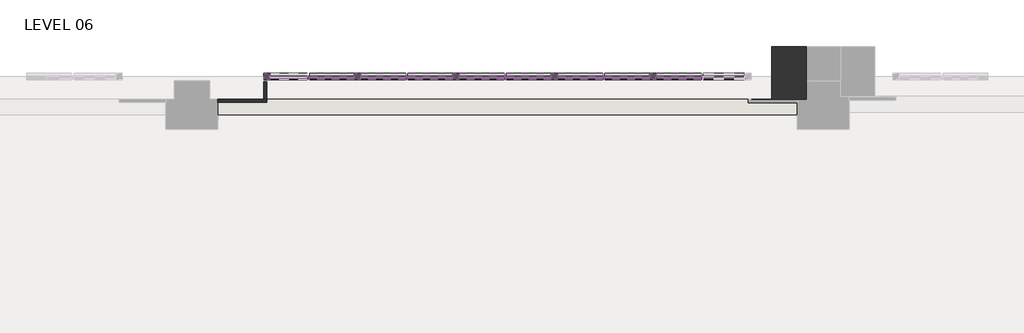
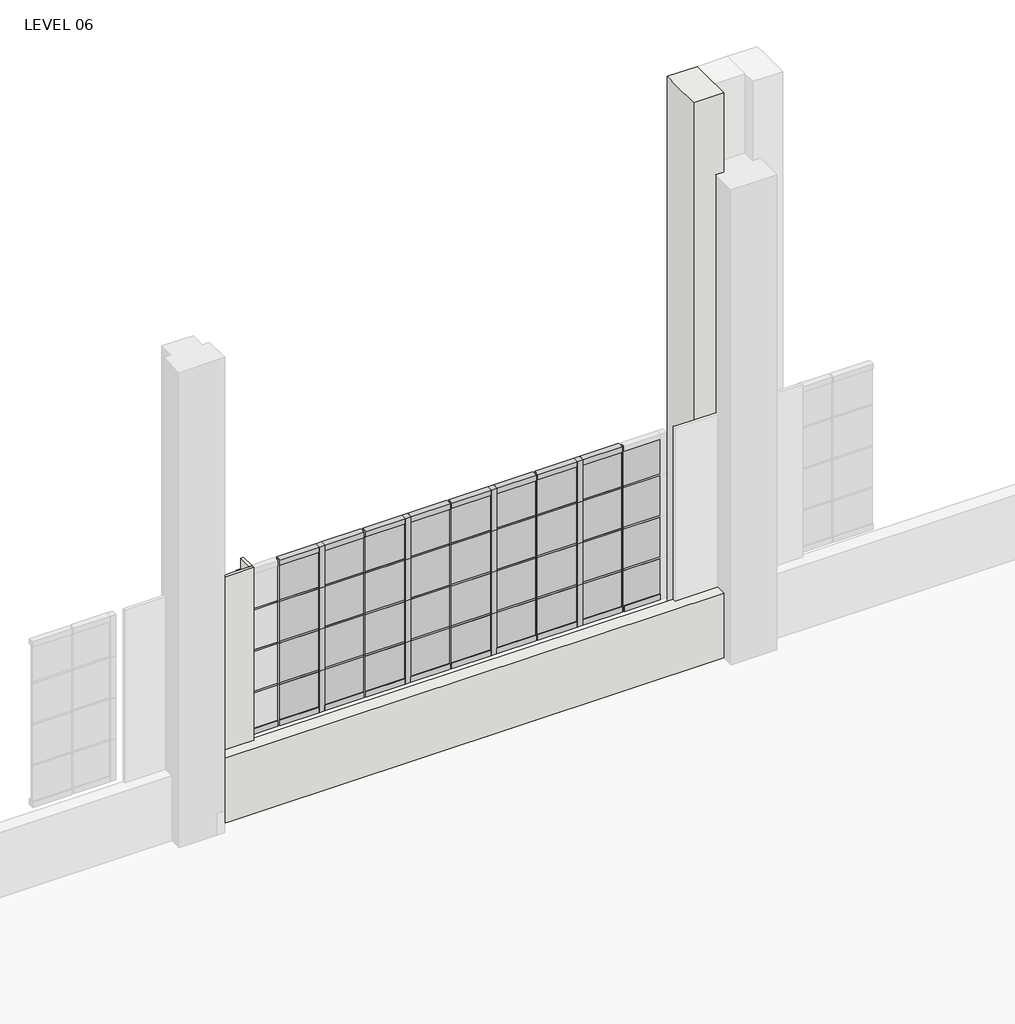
# One storey, part 13 of 16: 85 members, 36 plates, 4 walls.
"""IFC4 building model written with IfcOpenShell, lengths in millimetres."""

from ifc_helpers import new_model, si_unit, frame, origin, place, context, project, spatial, polyline, outline, extrude, faceted_brep, transform, mapped, element, save
from components import member_8b579164, member_d9fe2114, member_78bb2ef1, member_58a7523c, member_6e5aab5d, member_ba51e770, member_bacafba3, member_a6d649dc, system_panel_glazed_84a10c8e, system_panel_glazed_44697018, system_panel_glazed_99b9b709, system_panel_glazed_bf1454fd

model = new_model("IFC4")

# Units and contexts
model_context = context("Model", 3, world=origin())
ifc_project = project(units=[si_unit("LENGTHUNIT", "METRE", prefix="MILLI")], contexts=[model_context])

# Site, building, storey
site = spatial("IfcSite", under=ifc_project)
building = spatial("IfcBuilding", under=site)
storey = spatial("IfcBuildingStorey", under=building, Name="LEVEL 06", Elevation=17449.8)

# Members
placement = place(None, origin())
member_shape = member_8b579164(model_context)
element("IfcMember", 1, ObjectType="Rectangular Mullion : 1\" x 1\" - Butt Joint", at=placement, inside=storey, context=model_context, shape_type="MappedRepresentation", body=[
    mapped(member_shape, transform((-14064.4571519, -412.75, 19989.8), x_axis=(0.0, 0.0, 1.0), y_axis=(0.0, -1.0, 0.0), z_axis=(1.0, 0.0, 0.0))),
])
element("IfcMember", 2, ObjectType="Rectangular Mullion : 1\" x 1\" - Butt Joint", at=placement, inside=storey, context=model_context, shape_type="MappedRepresentation", body=[
    mapped(member_shape, transform((-14064.4571519, -412.75, 19405.6), x_axis=(0.0, 0.0, 1.0), y_axis=(0.0, -1.0, 0.0), z_axis=(1.0, 0.0, 0.0))),
])
element("IfcMember", 3, ObjectType="Rectangular Mullion : 1\" x 1\" - Butt Joint", at=placement, inside=storey, context=model_context, shape_type="MappedRepresentation", body=[
    mapped(member_shape, transform((-14064.4571519, -412.75, 18821.4), x_axis=(0.0, 0.0, 1.0), y_axis=(0.0, -1.0, 0.0), z_axis=(1.0, 0.0, 0.0))),
])
member_2_shape = member_d9fe2114(model_context)
element("IfcMember", 4, ObjectType="Rectangular Mullion : 1\" x 1\" - Butt Joint", at=placement, inside=storey, context=model_context, shape_type="MappedRepresentation", body=[
    mapped(member_2_shape, transform((-13515.8171519, -412.75, 19989.8), x_axis=(0.0, 0.0, 1.0), y_axis=(0.0, -1.0, 0.0), z_axis=(1.0, 0.0, 0.0))),
])
element("IfcMember", 5, ObjectType="Rectangular Mullion : 1\" x 1\" - Butt Joint", at=placement, inside=storey, context=model_context, shape_type="MappedRepresentation", body=[
    mapped(member_2_shape, transform((-12367.7371519, -412.75, 19989.8), x_axis=(0.0, 0.0, 1.0), y_axis=(0.0, -1.0, 0.0), z_axis=(1.0, 0.0, 0.0))),
])
element("IfcMember", 6, ObjectType="Rectangular Mullion : 1\" x 1\" - Butt Joint", at=placement, inside=storey, context=model_context, shape_type="MappedRepresentation", body=[
    mapped(member_2_shape, transform((-11219.6571519, -412.75, 19989.8), x_axis=(0.0, 0.0, 1.0), y_axis=(0.0, -1.0, 0.0), z_axis=(1.0, 0.0, 0.0))),
])
element("IfcMember", 7, ObjectType="Rectangular Mullion : 1\" x 1\" - Butt Joint", at=placement, inside=storey, context=model_context, shape_type="MappedRepresentation", body=[
    mapped(member_2_shape, transform((-10071.5771519, -412.75, 19989.8), x_axis=(0.0, 0.0, 1.0), y_axis=(0.0, -1.0, 0.0), z_axis=(1.0, 0.0, 0.0))),
])
element("IfcMember", 8, ObjectType="Rectangular Mullion : 1\" x 1\" - Butt Joint", at=placement, inside=storey, context=model_context, shape_type="MappedRepresentation", body=[
    mapped(member_2_shape, transform((-12916.3771519, -412.75, 19989.8), x_axis=(0.0, 0.0, 1.0), y_axis=(0.0, -1.0, 0.0), z_axis=(1.0, 0.0, 0.0))),
])
element("IfcMember", 9, ObjectType="Rectangular Mullion : 1\" x 1\" - Butt Joint", at=placement, inside=storey, context=model_context, shape_type="MappedRepresentation", body=[
    mapped(member_2_shape, transform((-11768.2971519, -412.75, 19989.8), x_axis=(0.0, 0.0, 1.0), y_axis=(0.0, -1.0, 0.0), z_axis=(1.0, 0.0, 0.0))),
])
element("IfcMember", 10, ObjectType="Rectangular Mullion : 1\" x 1\" - Butt Joint", at=placement, inside=storey, context=model_context, shape_type="MappedRepresentation", body=[
    mapped(member_2_shape, transform((-10620.2171519, -412.75, 19989.8), x_axis=(0.0, 0.0, 1.0), y_axis=(0.0, -1.0, 0.0), z_axis=(1.0, 0.0, 0.0))),
])
element("IfcMember", 11, ObjectType="Rectangular Mullion : 1\" x 1\" - Butt Joint", at=placement, inside=storey, context=model_context, shape_type="MappedRepresentation", body=[
    mapped(member_2_shape, transform((-9472.1371519, -412.75, 19989.8), x_axis=(0.0, 0.0, 1.0), y_axis=(0.0, -1.0, 0.0), z_axis=(1.0, 0.0, 0.0))),
])
element("IfcMember", 12, ObjectType="Rectangular Mullion : 1\" x 1\" - Butt Joint", at=placement, inside=storey, context=model_context, shape_type="MappedRepresentation", body=[
    mapped(member_2_shape, transform((-13515.8171519, -412.75, 19405.6), x_axis=(0.0, 0.0, 1.0), y_axis=(0.0, -1.0, 0.0), z_axis=(1.0, 0.0, 0.0))),
])
element("IfcMember", 13, ObjectType="Rectangular Mullion : 1\" x 1\" - Butt Joint", at=placement, inside=storey, context=model_context, shape_type="MappedRepresentation", body=[
    mapped(member_2_shape, transform((-12367.7371519, -412.75, 19405.6), x_axis=(0.0, 0.0, 1.0), y_axis=(0.0, -1.0, 0.0), z_axis=(1.0, 0.0, 0.0))),
])
element("IfcMember", 14, ObjectType="Rectangular Mullion : 1\" x 1\" - Butt Joint", at=placement, inside=storey, context=model_context, shape_type="MappedRepresentation", body=[
    mapped(member_2_shape, transform((-11219.6571519, -412.75, 19405.6), x_axis=(0.0, 0.0, 1.0), y_axis=(0.0, -1.0, 0.0), z_axis=(1.0, 0.0, 0.0))),
])
element("IfcMember", 15, ObjectType="Rectangular Mullion : 1\" x 1\" - Butt Joint", at=placement, inside=storey, context=model_context, shape_type="MappedRepresentation", body=[
    mapped(member_2_shape, transform((-10071.5771519, -412.75, 19405.6), x_axis=(0.0, 0.0, 1.0), y_axis=(0.0, -1.0, 0.0), z_axis=(1.0, 0.0, 0.0))),
])
element("IfcMember", 16, ObjectType="Rectangular Mullion : 1\" x 1\" - Butt Joint", at=placement, inside=storey, context=model_context, shape_type="MappedRepresentation", body=[
    mapped(member_2_shape, transform((-12916.3771519, -412.75, 19405.6), x_axis=(0.0, 0.0, 1.0), y_axis=(0.0, -1.0, 0.0), z_axis=(1.0, 0.0, 0.0))),
])
element("IfcMember", 17, ObjectType="Rectangular Mullion : 1\" x 1\" - Butt Joint", at=placement, inside=storey, context=model_context, shape_type="MappedRepresentation", body=[
    mapped(member_2_shape, transform((-11768.2971519, -412.75, 19405.6), x_axis=(0.0, 0.0, 1.0), y_axis=(0.0, -1.0, 0.0), z_axis=(1.0, 0.0, 0.0))),
])
element("IfcMember", 18, ObjectType="Rectangular Mullion : 1\" x 1\" - Butt Joint", at=placement, inside=storey, context=model_context, shape_type="MappedRepresentation", body=[
    mapped(member_2_shape, transform((-10620.2171519, -412.75, 19405.6), x_axis=(0.0, 0.0, 1.0), y_axis=(0.0, -1.0, 0.0), z_axis=(1.0, 0.0, 0.0))),
])
element("IfcMember", 19, ObjectType="Rectangular Mullion : 1\" x 1\" - Butt Joint", at=placement, inside=storey, context=model_context, shape_type="MappedRepresentation", body=[
    mapped(member_2_shape, transform((-9472.1371519, -412.75, 19405.6), x_axis=(0.0, 0.0, 1.0), y_axis=(0.0, -1.0, 0.0), z_axis=(1.0, 0.0, 0.0))),
])
element("IfcMember", 20, ObjectType="Rectangular Mullion : 1\" x 1\" - Butt Joint", at=placement, inside=storey, context=model_context, shape_type="MappedRepresentation", body=[
    mapped(member_2_shape, transform((-13515.8171519, -412.75, 18821.4), x_axis=(0.0, 0.0, 1.0), y_axis=(0.0, -1.0, 0.0), z_axis=(1.0, 0.0, 0.0))),
])
element("IfcMember", 21, ObjectType="Rectangular Mullion : 1\" x 1\" - Butt Joint", at=placement, inside=storey, context=model_context, shape_type="MappedRepresentation", body=[
    mapped(member_2_shape, transform((-12367.7371519, -412.75, 18821.4), x_axis=(0.0, 0.0, 1.0), y_axis=(0.0, -1.0, 0.0), z_axis=(1.0, 0.0, 0.0))),
])
element("IfcMember", 22, ObjectType="Rectangular Mullion : 1\" x 1\" - Butt Joint", at=placement, inside=storey, context=model_context, shape_type="MappedRepresentation", body=[
    mapped(member_2_shape, transform((-11219.6571519, -412.75, 18821.4), x_axis=(0.0, 0.0, 1.0), y_axis=(0.0, -1.0, 0.0), z_axis=(1.0, 0.0, 0.0))),
])
element("IfcMember", 23, ObjectType="Rectangular Mullion : 1\" x 1\" - Butt Joint", at=placement, inside=storey, context=model_context, shape_type="MappedRepresentation", body=[
    mapped(member_2_shape, transform((-10071.5771519, -412.75, 18821.4), x_axis=(0.0, 0.0, 1.0), y_axis=(0.0, -1.0, 0.0), z_axis=(1.0, 0.0, 0.0))),
])
element("IfcMember", 24, ObjectType="Rectangular Mullion : 1\" x 1\" - Butt Joint", at=placement, inside=storey, context=model_context, shape_type="MappedRepresentation", body=[
    mapped(member_2_shape, transform((-12916.3771519, -412.75, 18821.4), x_axis=(0.0, 0.0, 1.0), y_axis=(0.0, -1.0, 0.0), z_axis=(1.0, 0.0, 0.0))),
])
element("IfcMember", 25, ObjectType="Rectangular Mullion : 1\" x 1\" - Butt Joint", at=placement, inside=storey, context=model_context, shape_type="MappedRepresentation", body=[
    mapped(member_2_shape, transform((-11768.2971519, -412.75, 18821.4), x_axis=(0.0, 0.0, 1.0), y_axis=(0.0, -1.0, 0.0), z_axis=(1.0, 0.0, 0.0))),
])
element("IfcMember", 26, ObjectType="Rectangular Mullion : 1\" x 1\" - Butt Joint", at=placement, inside=storey, context=model_context, shape_type="MappedRepresentation", body=[
    mapped(member_2_shape, transform((-10620.2171519, -412.75, 18821.4), x_axis=(0.0, 0.0, 1.0), y_axis=(0.0, -1.0, 0.0), z_axis=(1.0, 0.0, 0.0))),
])
element("IfcMember", 27, ObjectType="Rectangular Mullion : 1\" x 1\" - Butt Joint", at=placement, inside=storey, context=model_context, shape_type="MappedRepresentation", body=[
    mapped(member_2_shape, transform((-9472.1371519, -412.75, 18821.4), x_axis=(0.0, 0.0, 1.0), y_axis=(0.0, -1.0, 0.0), z_axis=(1.0, 0.0, 0.0))),
])
member_3_shape = member_78bb2ef1(model_context)
element("IfcMember", 28, ObjectType="Rectangular Mullion : 1\" x 1\" - Butt Joint", at=placement, inside=storey, context=model_context, shape_type="MappedRepresentation", body=[
    mapped(member_3_shape, transform((-9459.4371519, -412.75, 19989.8), x_axis=(1.0, 0.0, 0.0), y_axis=(0.0, -1.0, 0.0), z_axis=(0.0, 0.0, -1.0))),
])
element("IfcMember", 29, ObjectType="Rectangular Mullion : 1\" x 1\" - Butt Joint", at=placement, inside=storey, context=model_context, shape_type="MappedRepresentation", body=[
    mapped(member_3_shape, transform((-10607.5171519, -412.75, 19989.8), x_axis=(1.0, 0.0, 0.0), y_axis=(0.0, -1.0, 0.0), z_axis=(0.0, 0.0, -1.0))),
])
element("IfcMember", 30, ObjectType="Rectangular Mullion : 1\" x 1\" - Butt Joint", at=placement, inside=storey, context=model_context, shape_type="MappedRepresentation", body=[
    mapped(member_3_shape, transform((-11755.5971519, -412.75, 19989.8), x_axis=(1.0, 0.0, 0.0), y_axis=(0.0, -1.0, 0.0), z_axis=(0.0, 0.0, -1.0))),
])
element("IfcMember", 31, ObjectType="Rectangular Mullion : 1\" x 1\" - Butt Joint", at=placement, inside=storey, context=model_context, shape_type="MappedRepresentation", body=[
    mapped(member_3_shape, transform((-12903.6771519, -412.75, 19989.8), x_axis=(1.0, 0.0, 0.0), y_axis=(0.0, -1.0, 0.0), z_axis=(0.0, 0.0, -1.0))),
])
element("IfcMember", 32, ObjectType="Rectangular Mullion : 1\" x 1\" - Butt Joint", at=placement, inside=storey, context=model_context, shape_type="MappedRepresentation", body=[
    mapped(member_3_shape, transform((-14051.7571519, -412.75, 19989.8), x_axis=(1.0, 0.0, 0.0), y_axis=(0.0, -1.0, 0.0), z_axis=(0.0, 0.0, -1.0))),
])
element("IfcMember", 33, ObjectType="Rectangular Mullion : 1\" x 1\" - Butt Joint", at=placement, inside=storey, context=model_context, shape_type="MappedRepresentation", body=[
    mapped(member_3_shape, transform((-9459.4371519, -412.75, 18821.4), x_axis=(1.0, 0.0, 0.0), y_axis=(0.0, -1.0, 0.0), z_axis=(0.0, 0.0, -1.0))),
])
element("IfcMember", 34, ObjectType="Rectangular Mullion : 1\" x 1\" - Butt Joint", at=placement, inside=storey, context=model_context, shape_type="MappedRepresentation", body=[
    mapped(member_3_shape, transform((-9459.4371519, -412.75, 19405.6), x_axis=(1.0, 0.0, 0.0), y_axis=(0.0, -1.0, 0.0), z_axis=(0.0, 0.0, -1.0))),
])
element("IfcMember", 35, ObjectType="Rectangular Mullion : 1\" x 1\" - Butt Joint", at=placement, inside=storey, context=model_context, shape_type="MappedRepresentation", body=[
    mapped(member_3_shape, transform((-10607.5171519, -412.75, 18821.4), x_axis=(1.0, 0.0, 0.0), y_axis=(0.0, -1.0, 0.0), z_axis=(0.0, 0.0, -1.0))),
])
element("IfcMember", 36, ObjectType="Rectangular Mullion : 1\" x 1\" - Butt Joint", at=placement, inside=storey, context=model_context, shape_type="MappedRepresentation", body=[
    mapped(member_3_shape, transform((-10607.5171519, -412.75, 19405.6), x_axis=(1.0, 0.0, 0.0), y_axis=(0.0, -1.0, 0.0), z_axis=(0.0, 0.0, -1.0))),
])
element("IfcMember", 37, ObjectType="Rectangular Mullion : 1\" x 1\" - Butt Joint", at=placement, inside=storey, context=model_context, shape_type="MappedRepresentation", body=[
    mapped(member_3_shape, transform((-11755.5971519, -412.75, 18821.4), x_axis=(1.0, 0.0, 0.0), y_axis=(0.0, -1.0, 0.0), z_axis=(0.0, 0.0, -1.0))),
])
element("IfcMember", 38, ObjectType="Rectangular Mullion : 1\" x 1\" - Butt Joint", at=placement, inside=storey, context=model_context, shape_type="MappedRepresentation", body=[
    mapped(member_3_shape, transform((-11755.5971519, -412.75, 19405.6), x_axis=(1.0, 0.0, 0.0), y_axis=(0.0, -1.0, 0.0), z_axis=(0.0, 0.0, -1.0))),
])
element("IfcMember", 39, ObjectType="Rectangular Mullion : 1\" x 1\" - Butt Joint", at=placement, inside=storey, context=model_context, shape_type="MappedRepresentation", body=[
    mapped(member_3_shape, transform((-12903.6771519, -412.75, 18821.4), x_axis=(1.0, 0.0, 0.0), y_axis=(0.0, -1.0, 0.0), z_axis=(0.0, 0.0, -1.0))),
])
element("IfcMember", 40, ObjectType="Rectangular Mullion : 1\" x 1\" - Butt Joint", at=placement, inside=storey, context=model_context, shape_type="MappedRepresentation", body=[
    mapped(member_3_shape, transform((-12903.6771519, -412.75, 19405.6), x_axis=(1.0, 0.0, 0.0), y_axis=(0.0, -1.0, 0.0), z_axis=(0.0, 0.0, -1.0))),
])
element("IfcMember", 41, ObjectType="Rectangular Mullion : 1\" x 1\" - Butt Joint", at=placement, inside=storey, context=model_context, shape_type="MappedRepresentation", body=[
    mapped(member_3_shape, transform((-14051.7571519, -412.75, 18821.4), x_axis=(1.0, 0.0, 0.0), y_axis=(0.0, -1.0, 0.0), z_axis=(0.0, 0.0, -1.0))),
])
element("IfcMember", 42, ObjectType="Rectangular Mullion : 1\" x 1\" - Butt Joint", at=placement, inside=storey, context=model_context, shape_type="MappedRepresentation", body=[
    mapped(member_3_shape, transform((-14051.7571519, -412.75, 19405.6), x_axis=(1.0, 0.0, 0.0), y_axis=(0.0, -1.0, 0.0), z_axis=(0.0, 0.0, -1.0))),
])
element("IfcMember", 43, ObjectType="Rectangular Mullion : 1\" x 1\" - Butt Joint", at=placement, inside=storey, context=model_context, shape_type="MappedRepresentation", body=[
    mapped(member_3_shape, transform((-9459.4371519, -412.75, 18237.2), x_axis=(1.0, 0.0, 0.0), y_axis=(0.0, -1.0, 0.0), z_axis=(0.0, 0.0, -1.0))),
])
element("IfcMember", 44, ObjectType="Rectangular Mullion : 1\" x 1\" - Butt Joint", at=placement, inside=storey, context=model_context, shape_type="MappedRepresentation", body=[
    mapped(member_3_shape, transform((-10607.5171519, -412.75, 18237.2), x_axis=(1.0, 0.0, 0.0), y_axis=(0.0, -1.0, 0.0), z_axis=(0.0, 0.0, -1.0))),
])
element("IfcMember", 45, ObjectType="Rectangular Mullion : 1\" x 1\" - Butt Joint", at=placement, inside=storey, context=model_context, shape_type="MappedRepresentation", body=[
    mapped(member_3_shape, transform((-11755.5971519, -412.75, 18237.2), x_axis=(1.0, 0.0, 0.0), y_axis=(0.0, -1.0, 0.0), z_axis=(0.0, 0.0, -1.0))),
])
element("IfcMember", 46, ObjectType="Rectangular Mullion : 1\" x 1\" - Butt Joint", at=placement, inside=storey, context=model_context, shape_type="MappedRepresentation", body=[
    mapped(member_3_shape, transform((-12903.6771519, -412.75, 18237.2), x_axis=(1.0, 0.0, 0.0), y_axis=(0.0, -1.0, 0.0), z_axis=(0.0, 0.0, -1.0))),
])
element("IfcMember", 47, ObjectType="Rectangular Mullion : 1\" x 1\" - Butt Joint", at=placement, inside=storey, context=model_context, shape_type="MappedRepresentation", body=[
    mapped(member_3_shape, transform((-14051.7571519, -412.75, 18237.2), x_axis=(1.0, 0.0, 0.0), y_axis=(0.0, -1.0, 0.0), z_axis=(0.0, 0.0, -1.0))),
])
member_4_shape = member_58a7523c(model_context)
element("IfcMember", 48, ObjectType="Rectangular Mullion : 3\" x 3\" Window Jamb", at=placement, inside=storey, context=model_context, shape_type="MappedRepresentation", body=[
    mapped(member_4_shape, transform((-14498.7971519, -412.75, 18237.2), x_axis=(0.0, 0.0, -1.0), y_axis=(0.0, -1.0, 0.0), z_axis=(-1.0, 0.0, 0.0))),
])
member_5_shape = member_6e5aab5d(model_context)
element("IfcMember", 49, ObjectType="Rectangular Mullion : 3\" x 3\" Window Jamb", at=placement, inside=storey, context=model_context, shape_type="MappedRepresentation", body=[
    mapped(member_5_shape, transform((-12916.3771519, -412.75, 20574.0), x_axis=(0.0, 0.0, 1.0), y_axis=(0.0, -1.0, 0.0), z_axis=(1.0, 0.0, 0.0))),
])
element("IfcMember", 50, ObjectType="Rectangular Mullion : 3\" x 3\" Window Jamb", at=placement, inside=storey, context=model_context, shape_type="MappedRepresentation", body=[
    mapped(member_5_shape, transform((-11768.2971519, -412.75, 20574.0), x_axis=(0.0, 0.0, 1.0), y_axis=(0.0, -1.0, 0.0), z_axis=(1.0, 0.0, 0.0))),
])
element("IfcMember", 51, ObjectType="Rectangular Mullion : 3\" x 3\" Window Jamb", at=placement, inside=storey, context=model_context, shape_type="MappedRepresentation", body=[
    mapped(member_5_shape, transform((-10620.2171519, -412.75, 20574.0), x_axis=(0.0, 0.0, 1.0), y_axis=(0.0, -1.0, 0.0), z_axis=(1.0, 0.0, 0.0))),
])
element("IfcMember", 52, ObjectType="Rectangular Mullion : 3\" x 3\" Window Jamb", at=placement, inside=storey, context=model_context, shape_type="MappedRepresentation", body=[
    mapped(member_5_shape, transform((-9472.1371519, -412.75, 20574.0), x_axis=(0.0, 0.0, 1.0), y_axis=(0.0, -1.0, 0.0), z_axis=(1.0, 0.0, 0.0))),
])
element("IfcMember", 53, ObjectType="Rectangular Mullion : 3\" x 3\" Window Jamb", at=placement, inside=storey, context=model_context, shape_type="MappedRepresentation", body=[
    mapped(member_5_shape, transform((-13515.8171519, -412.75, 20574.0), x_axis=(0.0, 0.0, 1.0), y_axis=(0.0, -1.0, 0.0), z_axis=(1.0, 0.0, 0.0))),
])
element("IfcMember", 54, ObjectType="Rectangular Mullion : 3\" x 3\" Window Jamb", at=placement, inside=storey, context=model_context, shape_type="MappedRepresentation", body=[
    mapped(member_5_shape, transform((-12367.7371519, -412.75, 20574.0), x_axis=(0.0, 0.0, 1.0), y_axis=(0.0, -1.0, 0.0), z_axis=(1.0, 0.0, 0.0))),
])
element("IfcMember", 55, ObjectType="Rectangular Mullion : 3\" x 3\" Window Jamb", at=placement, inside=storey, context=model_context, shape_type="MappedRepresentation", body=[
    mapped(member_5_shape, transform((-11219.6571519, -412.75, 20574.0), x_axis=(0.0, 0.0, 1.0), y_axis=(0.0, -1.0, 0.0), z_axis=(1.0, 0.0, 0.0))),
])
element("IfcMember", 56, ObjectType="Rectangular Mullion : 3\" x 3\" Window Jamb", at=placement, inside=storey, context=model_context, shape_type="MappedRepresentation", body=[
    mapped(member_5_shape, transform((-10071.5771519, -412.75, 20574.0), x_axis=(0.0, 0.0, 1.0), y_axis=(0.0, -1.0, 0.0), z_axis=(1.0, 0.0, 0.0))),
])
element("IfcMember", 57, ObjectType="Rectangular Mullion : 3\" x 3\" Window Jamb", at=placement, inside=storey, context=model_context, shape_type="MappedRepresentation", body=[
    mapped(member_5_shape, transform((-14039.0571519, -412.75, 18237.2), x_axis=(0.0, 0.0, -1.0), y_axis=(0.0, -1.0, 0.0), z_axis=(-1.0, 0.0, 0.0))),
])
element("IfcMember", 58, ObjectType="Rectangular Mullion : 3\" x 3\" Window Jamb", at=placement, inside=storey, context=model_context, shape_type="MappedRepresentation", body=[
    mapped(member_5_shape, transform((-12890.9771519, -412.75, 18237.2), x_axis=(0.0, 0.0, -1.0), y_axis=(0.0, -1.0, 0.0), z_axis=(-1.0, 0.0, 0.0))),
])
element("IfcMember", 59, ObjectType="Rectangular Mullion : 3\" x 3\" Window Jamb", at=placement, inside=storey, context=model_context, shape_type="MappedRepresentation", body=[
    mapped(member_5_shape, transform((-11742.8971519, -412.75, 18237.2), x_axis=(0.0, 0.0, -1.0), y_axis=(0.0, -1.0, 0.0), z_axis=(-1.0, 0.0, 0.0))),
])
element("IfcMember", 60, ObjectType="Rectangular Mullion : 3\" x 3\" Window Jamb", at=placement, inside=storey, context=model_context, shape_type="MappedRepresentation", body=[
    mapped(member_5_shape, transform((-10594.8171519, -412.75, 18237.2), x_axis=(0.0, 0.0, -1.0), y_axis=(0.0, -1.0, 0.0), z_axis=(-1.0, 0.0, 0.0))),
])
element("IfcMember", 61, ObjectType="Rectangular Mullion : 3\" x 3\" Window Jamb", at=placement, inside=storey, context=model_context, shape_type="MappedRepresentation", body=[
    mapped(member_5_shape, transform((-13439.6171519, -412.75, 18237.2), x_axis=(0.0, 0.0, -1.0), y_axis=(0.0, -1.0, 0.0), z_axis=(-1.0, 0.0, 0.0))),
])
element("IfcMember", 62, ObjectType="Rectangular Mullion : 3\" x 3\" Window Jamb", at=placement, inside=storey, context=model_context, shape_type="MappedRepresentation", body=[
    mapped(member_5_shape, transform((-12291.5371519, -412.75, 18237.2), x_axis=(0.0, 0.0, -1.0), y_axis=(0.0, -1.0, 0.0), z_axis=(-1.0, 0.0, 0.0))),
])
element("IfcMember", 63, ObjectType="Rectangular Mullion : 3\" x 3\" Window Jamb", at=placement, inside=storey, context=model_context, shape_type="MappedRepresentation", body=[
    mapped(member_5_shape, transform((-11143.4571519, -412.75, 18237.2), x_axis=(0.0, 0.0, -1.0), y_axis=(0.0, -1.0, 0.0), z_axis=(-1.0, 0.0, 0.0))),
])
element("IfcMember", 64, ObjectType="Rectangular Mullion : 3\" x 3\" Window Jamb", at=placement, inside=storey, context=model_context, shape_type="MappedRepresentation", body=[
    mapped(member_5_shape, transform((-9995.3771519, -412.75, 18237.2), x_axis=(0.0, 0.0, -1.0), y_axis=(0.0, -1.0, 0.0), z_axis=(-1.0, 0.0, 0.0))),
])
member_6_shape = member_ba51e770(model_context)
element("IfcMember", 65, ObjectType="Rectangular Mullion : 3\" x 3\" Window Jamb", at=placement, inside=storey, context=model_context, shape_type="MappedRepresentation", body=[
    mapped(member_6_shape, transform((-9446.7371519, -412.75, 18237.2), x_axis=(0.0, 0.0, -1.0), y_axis=(0.0, -1.0, 0.0), z_axis=(-1.0, 0.0, 0.0))),
])
member_7_shape = member_bacafba3(model_context)
element("IfcMember", 66, ObjectType="Rectangular Mullion : 3\" x 3\" Window Jamb", at=placement, inside=storey, context=model_context, shape_type="MappedRepresentation", body=[
    mapped(member_7_shape, transform((-10033.4771519, -412.75, 19989.8), x_axis=(1.0, 0.0, 0.0), y_axis=(0.0, -1.0, 0.0), z_axis=(0.0, 0.0, -1.0))),
])
element("IfcMember", 67, ObjectType="Rectangular Mullion : 3\" x 3\" Window Jamb", at=placement, inside=storey, context=model_context, shape_type="MappedRepresentation", body=[
    mapped(member_7_shape, transform((-11181.5571519, -412.75, 19989.8), x_axis=(1.0, 0.0, 0.0), y_axis=(0.0, -1.0, 0.0), z_axis=(0.0, 0.0, -1.0))),
])
element("IfcMember", 68, ObjectType="Rectangular Mullion : 3\" x 3\" Window Jamb", at=placement, inside=storey, context=model_context, shape_type="MappedRepresentation", body=[
    mapped(member_7_shape, transform((-12329.6371519, -412.75, 19989.8), x_axis=(1.0, 0.0, 0.0), y_axis=(0.0, -1.0, 0.0), z_axis=(0.0, 0.0, -1.0))),
])
element("IfcMember", 69, ObjectType="Rectangular Mullion : 3\" x 3\" Window Jamb", at=placement, inside=storey, context=model_context, shape_type="MappedRepresentation", body=[
    mapped(member_7_shape, transform((-13477.7171519, -412.75, 19989.8), x_axis=(1.0, 0.0, 0.0), y_axis=(0.0, -1.0, 0.0), z_axis=(0.0, 0.0, -1.0))),
])
element("IfcMember", 70, ObjectType="Rectangular Mullion : 3\" x 3\" Window Jamb", at=placement, inside=storey, context=model_context, shape_type="MappedRepresentation", body=[
    mapped(member_7_shape, transform((-10033.4771519, -412.75, 18821.4), x_axis=(1.0, 0.0, 0.0), y_axis=(0.0, -1.0, 0.0), z_axis=(0.0, 0.0, -1.0))),
])
element("IfcMember", 71, ObjectType="Rectangular Mullion : 3\" x 3\" Window Jamb", at=placement, inside=storey, context=model_context, shape_type="MappedRepresentation", body=[
    mapped(member_7_shape, transform((-10033.4771519, -412.75, 19405.6), x_axis=(1.0, 0.0, 0.0), y_axis=(0.0, -1.0, 0.0), z_axis=(0.0, 0.0, -1.0))),
])
element("IfcMember", 72, ObjectType="Rectangular Mullion : 3\" x 3\" Window Jamb", at=placement, inside=storey, context=model_context, shape_type="MappedRepresentation", body=[
    mapped(member_7_shape, transform((-11181.5571519, -412.75, 18821.4), x_axis=(1.0, 0.0, 0.0), y_axis=(0.0, -1.0, 0.0), z_axis=(0.0, 0.0, -1.0))),
])
element("IfcMember", 73, ObjectType="Rectangular Mullion : 3\" x 3\" Window Jamb", at=placement, inside=storey, context=model_context, shape_type="MappedRepresentation", body=[
    mapped(member_7_shape, transform((-11181.5571519, -412.75, 19405.6), x_axis=(1.0, 0.0, 0.0), y_axis=(0.0, -1.0, 0.0), z_axis=(0.0, 0.0, -1.0))),
])
element("IfcMember", 74, ObjectType="Rectangular Mullion : 3\" x 3\" Window Jamb", at=placement, inside=storey, context=model_context, shape_type="MappedRepresentation", body=[
    mapped(member_7_shape, transform((-12329.6371519, -412.75, 18821.4), x_axis=(1.0, 0.0, 0.0), y_axis=(0.0, -1.0, 0.0), z_axis=(0.0, 0.0, -1.0))),
])
element("IfcMember", 75, ObjectType="Rectangular Mullion : 3\" x 3\" Window Jamb", at=placement, inside=storey, context=model_context, shape_type="MappedRepresentation", body=[
    mapped(member_7_shape, transform((-12329.6371519, -412.75, 19405.6), x_axis=(1.0, 0.0, 0.0), y_axis=(0.0, -1.0, 0.0), z_axis=(0.0, 0.0, -1.0))),
])
element("IfcMember", 76, ObjectType="Rectangular Mullion : 3\" x 3\" Window Jamb", at=placement, inside=storey, context=model_context, shape_type="MappedRepresentation", body=[
    mapped(member_7_shape, transform((-13477.7171519, -412.75, 18821.4), x_axis=(1.0, 0.0, 0.0), y_axis=(0.0, -1.0, 0.0), z_axis=(0.0, 0.0, -1.0))),
])
element("IfcMember", 77, ObjectType="Rectangular Mullion : 3\" x 3\" Window Jamb", at=placement, inside=storey, context=model_context, shape_type="MappedRepresentation", body=[
    mapped(member_7_shape, transform((-13477.7171519, -412.75, 19405.6), x_axis=(1.0, 0.0, 0.0), y_axis=(0.0, -1.0, 0.0), z_axis=(0.0, 0.0, -1.0))),
])
element("IfcMember", 78, ObjectType="Rectangular Mullion : 3\" x 3\" Window Jamb", at=placement, inside=storey, context=model_context, shape_type="MappedRepresentation", body=[
    mapped(member_7_shape, transform((-10033.4771519, -412.75, 18237.2), x_axis=(1.0, 0.0, 0.0), y_axis=(0.0, -1.0, 0.0), z_axis=(0.0, 0.0, -1.0))),
])
element("IfcMember", 79, ObjectType="Rectangular Mullion : 3\" x 3\" Window Jamb", at=placement, inside=storey, context=model_context, shape_type="MappedRepresentation", body=[
    mapped(member_7_shape, transform((-11181.5571519, -412.75, 18237.2), x_axis=(1.0, 0.0, 0.0), y_axis=(0.0, -1.0, 0.0), z_axis=(0.0, 0.0, -1.0))),
])
element("IfcMember", 80, ObjectType="Rectangular Mullion : 3\" x 3\" Window Jamb", at=placement, inside=storey, context=model_context, shape_type="MappedRepresentation", body=[
    mapped(member_7_shape, transform((-12329.6371519, -412.75, 18237.2), x_axis=(1.0, 0.0, 0.0), y_axis=(0.0, -1.0, 0.0), z_axis=(0.0, 0.0, -1.0))),
])
element("IfcMember", 81, ObjectType="Rectangular Mullion : 3\" x 3\" Window Jamb", at=placement, inside=storey, context=model_context, shape_type="MappedRepresentation", body=[
    mapped(member_7_shape, transform((-13477.7171519, -412.75, 18237.2), x_axis=(1.0, 0.0, 0.0), y_axis=(0.0, -1.0, 0.0), z_axis=(0.0, 0.0, -1.0))),
])
member_8_shape = member_a6d649dc(model_context)
element("IfcMember", 82, ObjectType="Rectangular Mullion : 3\" x 3\" Window Jamb", at=placement, inside=storey, context=model_context, shape_type="MappedRepresentation", body=[
    mapped(member_8_shape, transform((-14574.9971519, -412.75, 19989.8), x_axis=(-1.0, 0.0, 0.0), y_axis=(0.0, -1.0, 0.0), z_axis=(0.0, 0.0, 1.0))),
])
element("IfcMember", 83, ObjectType="Rectangular Mullion : 3\" x 3\" Window Jamb", at=placement, inside=storey, context=model_context, shape_type="MappedRepresentation", body=[
    mapped(member_8_shape, transform((-14574.9971519, -412.75, 19405.6), x_axis=(-1.0, 0.0, 0.0), y_axis=(0.0, -1.0, 0.0), z_axis=(0.0, 0.0, 1.0))),
])
element("IfcMember", 84, ObjectType="Rectangular Mullion : 3\" x 3\" Window Jamb", at=placement, inside=storey, context=model_context, shape_type="MappedRepresentation", body=[
    mapped(member_8_shape, transform((-14574.9971519, -412.75, 18821.4), x_axis=(-1.0, 0.0, 0.0), y_axis=(0.0, -1.0, 0.0), z_axis=(0.0, 0.0, 1.0))),
])
element("IfcMember", 85, ObjectType="Rectangular Mullion : 3\" x 3\" Window Jamb", at=placement, inside=storey, context=model_context, shape_type="MappedRepresentation", body=[
    mapped(member_8_shape, transform((-14574.9971519, -412.75, 20574.0), x_axis=(-1.0, 0.0, 0.0), y_axis=(0.0, -1.0, 0.0), z_axis=(0.0, 0.0, 1.0))),
])

# Plates
system_panel_glazed_shape = system_panel_glazed_84a10c8e(model_context)
element("IfcPlate", 86, ObjectType="System Panel : Glazed", at=placement, inside=storey, context=model_context, shape_type="MappedRepresentation", body=[
    mapped(system_panel_glazed_shape, transform((-9204.1671519, -412.75, 18313.4), x_axis=(1.0, 0.0, 0.0), y_axis=(0.0, 1.0, 0.0), z_axis=(0.0, 0.0, 1.0))),
])
element("IfcPlate", 87, ObjectType="System Panel : Glazed", at=placement, inside=storey, context=model_context, shape_type="MappedRepresentation", body=[
    mapped(system_panel_glazed_shape, transform((-9204.1671519, -412.75, 20002.5), x_axis=(1.0, 0.0, 0.0), y_axis=(0.0, 1.0, 0.0), z_axis=(0.0, 0.0, 1.0))),
])
system_panel_glazed_2_shape = system_panel_glazed_44697018(model_context)
element("IfcPlate", 88, ObjectType="System Panel : Glazed", at=placement, inside=storey, context=model_context, shape_type="MappedRepresentation", body=[
    mapped(system_panel_glazed_2_shape, transform((-9733.7571519, -412.75, 18313.4), x_axis=(1.0, 0.0, 0.0), y_axis=(0.0, 1.0, 0.0), z_axis=(0.0, 0.0, 1.0))),
])
element("IfcPlate", 89, ObjectType="System Panel : Glazed", at=placement, inside=storey, context=model_context, shape_type="MappedRepresentation", body=[
    mapped(system_panel_glazed_2_shape, transform((-10881.8371519, -412.75, 18313.4), x_axis=(1.0, 0.0, 0.0), y_axis=(0.0, 1.0, 0.0), z_axis=(0.0, 0.0, 1.0))),
])
element("IfcPlate", 90, ObjectType="System Panel : Glazed", at=placement, inside=storey, context=model_context, shape_type="MappedRepresentation", body=[
    mapped(system_panel_glazed_2_shape, transform((-12029.9171519, -412.75, 18313.4), x_axis=(1.0, 0.0, 0.0), y_axis=(0.0, 1.0, 0.0), z_axis=(0.0, 0.0, 1.0))),
])
element("IfcPlate", 91, ObjectType="System Panel : Glazed", at=placement, inside=storey, context=model_context, shape_type="MappedRepresentation", body=[
    mapped(system_panel_glazed_2_shape, transform((-13177.9971519, -412.75, 18313.4), x_axis=(1.0, 0.0, 0.0), y_axis=(0.0, 1.0, 0.0), z_axis=(0.0, 0.0, 1.0))),
])
element("IfcPlate", 92, ObjectType="System Panel : Glazed", at=placement, inside=storey, context=model_context, shape_type="MappedRepresentation", body=[
    mapped(system_panel_glazed_2_shape, transform((-13177.9971519, -412.75, 20002.5), x_axis=(1.0, 0.0, 0.0), y_axis=(0.0, 1.0, 0.0), z_axis=(0.0, 0.0, 1.0))),
])
element("IfcPlate", 93, ObjectType="System Panel : Glazed", at=placement, inside=storey, context=model_context, shape_type="MappedRepresentation", body=[
    mapped(system_panel_glazed_2_shape, transform((-12029.9171519, -412.75, 20002.5), x_axis=(1.0, 0.0, 0.0), y_axis=(0.0, 1.0, 0.0), z_axis=(0.0, 0.0, 1.0))),
])
element("IfcPlate", 94, ObjectType="System Panel : Glazed", at=placement, inside=storey, context=model_context, shape_type="MappedRepresentation", body=[
    mapped(system_panel_glazed_2_shape, transform((-10881.8371519, -412.75, 20002.5), x_axis=(1.0, 0.0, 0.0), y_axis=(0.0, 1.0, 0.0), z_axis=(0.0, 0.0, 1.0))),
])
element("IfcPlate", 95, ObjectType="System Panel : Glazed", at=placement, inside=storey, context=model_context, shape_type="MappedRepresentation", body=[
    mapped(system_panel_glazed_2_shape, transform((-9733.7571519, -412.75, 20002.5), x_axis=(1.0, 0.0, 0.0), y_axis=(0.0, 1.0, 0.0), z_axis=(0.0, 0.0, 1.0))),
])
element("IfcPlate", 96, ObjectType="System Panel : Glazed", at=placement, inside=storey, context=model_context, shape_type="MappedRepresentation", body=[
    mapped(system_panel_glazed_2_shape, transform((-10333.1971519, -412.75, 18313.4), x_axis=(1.0, 0.0, 0.0), y_axis=(0.0, 1.0, 0.0), z_axis=(0.0, 0.0, 1.0))),
])
element("IfcPlate", 97, ObjectType="System Panel : Glazed", at=placement, inside=storey, context=model_context, shape_type="MappedRepresentation", body=[
    mapped(system_panel_glazed_2_shape, transform((-10333.1971519, -412.75, 20002.5), x_axis=(1.0, 0.0, 0.0), y_axis=(0.0, 1.0, 0.0), z_axis=(0.0, 0.0, 1.0))),
])
element("IfcPlate", 98, ObjectType="System Panel : Glazed", at=placement, inside=storey, context=model_context, shape_type="MappedRepresentation", body=[
    mapped(system_panel_glazed_2_shape, transform((-11481.2771519, -412.75, 18313.4), x_axis=(1.0, 0.0, 0.0), y_axis=(0.0, 1.0, 0.0), z_axis=(0.0, 0.0, 1.0))),
])
element("IfcPlate", 99, ObjectType="System Panel : Glazed", at=placement, inside=storey, context=model_context, shape_type="MappedRepresentation", body=[
    mapped(system_panel_glazed_2_shape, transform((-11481.2771519, -412.75, 20002.5), x_axis=(1.0, 0.0, 0.0), y_axis=(0.0, 1.0, 0.0), z_axis=(0.0, 0.0, 1.0))),
])
element("IfcPlate", 100, ObjectType="System Panel : Glazed", at=placement, inside=storey, context=model_context, shape_type="MappedRepresentation", body=[
    mapped(system_panel_glazed_2_shape, transform((-12629.3571519, -412.75, 18313.4), x_axis=(1.0, 0.0, 0.0), y_axis=(0.0, 1.0, 0.0), z_axis=(0.0, 0.0, 1.0))),
])
element("IfcPlate", 101, ObjectType="System Panel : Glazed", at=placement, inside=storey, context=model_context, shape_type="MappedRepresentation", body=[
    mapped(system_panel_glazed_2_shape, transform((-12629.3571519, -412.75, 20002.5), x_axis=(1.0, 0.0, 0.0), y_axis=(0.0, 1.0, 0.0), z_axis=(0.0, 0.0, 1.0))),
])
element("IfcPlate", 102, ObjectType="System Panel : Glazed", at=placement, inside=storey, context=model_context, shape_type="MappedRepresentation", body=[
    mapped(system_panel_glazed_2_shape, transform((-13777.4371519, -412.75, 18313.4), x_axis=(1.0, 0.0, 0.0), y_axis=(0.0, 1.0, 0.0), z_axis=(0.0, 0.0, 1.0))),
])
element("IfcPlate", 103, ObjectType="System Panel : Glazed", at=placement, inside=storey, context=model_context, shape_type="MappedRepresentation", body=[
    mapped(system_panel_glazed_2_shape, transform((-13777.4371519, -412.75, 20002.5), x_axis=(1.0, 0.0, 0.0), y_axis=(0.0, 1.0, 0.0), z_axis=(0.0, 0.0, 1.0))),
])
system_panel_glazed_3_shape = system_panel_glazed_99b9b709(model_context)
element("IfcPlate", 104, ObjectType="System Panel : Glazed", at=placement, inside=storey, context=model_context, shape_type="MappedRepresentation", body=[
    mapped(system_panel_glazed_3_shape, transform((-9204.1671519, -412.75, 18834.1), x_axis=(1.0, 0.0, 0.0), y_axis=(0.0, 1.0, 0.0), z_axis=(0.0, 0.0, 1.0))),
])
element("IfcPlate", 105, ObjectType="System Panel : Glazed", at=placement, inside=storey, context=model_context, shape_type="MappedRepresentation", body=[
    mapped(system_panel_glazed_3_shape, transform((-9204.1671519, -412.75, 19418.3), x_axis=(1.0, 0.0, 0.0), y_axis=(0.0, 1.0, 0.0), z_axis=(0.0, 0.0, 1.0))),
])
system_panel_glazed_4_shape = system_panel_glazed_bf1454fd(model_context)
element("IfcPlate", 106, ObjectType="System Panel : Glazed", at=placement, inside=storey, context=model_context, shape_type="MappedRepresentation", body=[
    mapped(system_panel_glazed_4_shape, transform((-13177.9971519, -412.75, 19418.3), x_axis=(1.0, 0.0, 0.0), y_axis=(0.0, 1.0, 0.0), z_axis=(0.0, 0.0, 1.0))),
])
element("IfcPlate", 107, ObjectType="System Panel : Glazed", at=placement, inside=storey, context=model_context, shape_type="MappedRepresentation", body=[
    mapped(system_panel_glazed_4_shape, transform((-12029.9171519, -412.75, 19418.3), x_axis=(1.0, 0.0, 0.0), y_axis=(0.0, 1.0, 0.0), z_axis=(0.0, 0.0, 1.0))),
])
element("IfcPlate", 108, ObjectType="System Panel : Glazed", at=placement, inside=storey, context=model_context, shape_type="MappedRepresentation", body=[
    mapped(system_panel_glazed_4_shape, transform((-10881.8371519, -412.75, 19418.3), x_axis=(1.0, 0.0, 0.0), y_axis=(0.0, 1.0, 0.0), z_axis=(0.0, 0.0, 1.0))),
])
element("IfcPlate", 109, ObjectType="System Panel : Glazed", at=placement, inside=storey, context=model_context, shape_type="MappedRepresentation", body=[
    mapped(system_panel_glazed_4_shape, transform((-9733.7571519, -412.75, 19418.3), x_axis=(1.0, 0.0, 0.0), y_axis=(0.0, 1.0, 0.0), z_axis=(0.0, 0.0, 1.0))),
])
element("IfcPlate", 110, ObjectType="System Panel : Glazed", at=placement, inside=storey, context=model_context, shape_type="MappedRepresentation", body=[
    mapped(system_panel_glazed_4_shape, transform((-13177.9971519, -412.75, 18834.1), x_axis=(1.0, 0.0, 0.0), y_axis=(0.0, 1.0, 0.0), z_axis=(0.0, 0.0, 1.0))),
])
element("IfcPlate", 111, ObjectType="System Panel : Glazed", at=placement, inside=storey, context=model_context, shape_type="MappedRepresentation", body=[
    mapped(system_panel_glazed_4_shape, transform((-12029.9171519, -412.75, 18834.1), x_axis=(1.0, 0.0, 0.0), y_axis=(0.0, 1.0, 0.0), z_axis=(0.0, 0.0, 1.0))),
])
element("IfcPlate", 112, ObjectType="System Panel : Glazed", at=placement, inside=storey, context=model_context, shape_type="MappedRepresentation", body=[
    mapped(system_panel_glazed_4_shape, transform((-10881.8371519, -412.75, 18834.1), x_axis=(1.0, 0.0, 0.0), y_axis=(0.0, 1.0, 0.0), z_axis=(0.0, 0.0, 1.0))),
])
element("IfcPlate", 113, ObjectType="System Panel : Glazed", at=placement, inside=storey, context=model_context, shape_type="MappedRepresentation", body=[
    mapped(system_panel_glazed_4_shape, transform((-9733.7571519, -412.75, 18834.1), x_axis=(1.0, 0.0, 0.0), y_axis=(0.0, 1.0, 0.0), z_axis=(0.0, 0.0, 1.0))),
])
element("IfcPlate", 114, ObjectType="System Panel : Glazed", at=placement, inside=storey, context=model_context, shape_type="MappedRepresentation", body=[
    mapped(system_panel_glazed_4_shape, transform((-10333.1971519, -412.75, 18834.1), x_axis=(1.0, 0.0, 0.0), y_axis=(0.0, 1.0, 0.0), z_axis=(0.0, 0.0, 1.0))),
])
element("IfcPlate", 115, ObjectType="System Panel : Glazed", at=placement, inside=storey, context=model_context, shape_type="MappedRepresentation", body=[
    mapped(system_panel_glazed_4_shape, transform((-10333.1971519, -412.75, 19418.3), x_axis=(1.0, 0.0, 0.0), y_axis=(0.0, 1.0, 0.0), z_axis=(0.0, 0.0, 1.0))),
])
element("IfcPlate", 116, ObjectType="System Panel : Glazed", at=placement, inside=storey, context=model_context, shape_type="MappedRepresentation", body=[
    mapped(system_panel_glazed_4_shape, transform((-11481.2771519, -412.75, 18834.1), x_axis=(1.0, 0.0, 0.0), y_axis=(0.0, 1.0, 0.0), z_axis=(0.0, 0.0, 1.0))),
])
element("IfcPlate", 117, ObjectType="System Panel : Glazed", at=placement, inside=storey, context=model_context, shape_type="MappedRepresentation", body=[
    mapped(system_panel_glazed_4_shape, transform((-11481.2771519, -412.75, 19418.3), x_axis=(1.0, 0.0, 0.0), y_axis=(0.0, 1.0, 0.0), z_axis=(0.0, 0.0, 1.0))),
])
element("IfcPlate", 118, ObjectType="System Panel : Glazed", at=placement, inside=storey, context=model_context, shape_type="MappedRepresentation", body=[
    mapped(system_panel_glazed_4_shape, transform((-12629.3571519, -412.75, 18834.1), x_axis=(1.0, 0.0, 0.0), y_axis=(0.0, 1.0, 0.0), z_axis=(0.0, 0.0, 1.0))),
])
element("IfcPlate", 119, ObjectType="System Panel : Glazed", at=placement, inside=storey, context=model_context, shape_type="MappedRepresentation", body=[
    mapped(system_panel_glazed_4_shape, transform((-12629.3571519, -412.75, 19418.3), x_axis=(1.0, 0.0, 0.0), y_axis=(0.0, 1.0, 0.0), z_axis=(0.0, 0.0, 1.0))),
])
element("IfcPlate", 120, ObjectType="System Panel : Glazed", at=placement, inside=storey, context=model_context, shape_type="MappedRepresentation", body=[
    mapped(system_panel_glazed_4_shape, transform((-13777.4371519, -412.75, 18834.1), x_axis=(1.0, 0.0, 0.0), y_axis=(0.0, 1.0, 0.0), z_axis=(0.0, 0.0, 1.0))),
])
element("IfcPlate", 121, ObjectType="System Panel : Glazed", at=placement, inside=storey, context=model_context, shape_type="MappedRepresentation", body=[
    mapped(system_panel_glazed_4_shape, transform((-13777.4371519, -412.75, 19418.3), x_axis=(1.0, 0.0, 0.0), y_axis=(0.0, 1.0, 0.0), z_axis=(0.0, 0.0, 1.0))),
])

# Walls
element("IfcWall", 122, ObjectType="Generic Exterior - Brick Three Wythe", at=placement, inside=storey, context=model_context, shape_type="Brep", body=[
    faceted_brep([(-8246.7173649, -663.575, 17449.8), (-8246.7173649, -450.85, 17449.8), (-8246.7173649, -50.8, 17449.8), (-8246.7173649, -50.8, 25273.0), (-8246.7173649, -450.85, 25273.0), (-8246.7173649, -663.575, 25273.0), (-8246.7173649, -663.575, 24155.4), (-8646.7673649, -663.575, 17449.8), (-8646.7673649, -663.575, 25273.0), (-8646.7673649, -263.525, 25273.0), (-8646.7673649, -50.8, 25273.0), (-8646.7673649, -50.8, 17449.8), (-8352.0721136, -663.575, 17449.8)], [[[0, 1, 2, 3, 4, 5, 6]], [[7, 8, 9, 10, 11]], [[2, 1, 0, 12, 7, 11]], [[5, 4, 3, 10, 9, 8]], [[0, 6, 5, 8, 7, 12]], [[3, 2, 11, 10]]]),
])
element("IfcWall", 123, ObjectType="Partition A6_", at=placement, inside=storey, context=model_context, shape_type="Brep", body=[
    faceted_brep([(-8352.0721136, -663.575, 17449.8), (-15107.8349596, -663.575, 17449.8), (-15107.8349596, -663.575, 17754.6), (-15107.8349596, -663.575, 18364.2), (-8352.0721136, -663.575, 18364.2), (-8352.0721136, -847.725, 17449.8), (-8352.0721136, -847.725, 18364.2), (-15107.8349596, -847.725, 18364.2), (-15107.8349596, -847.725, 17449.8)], [[[0, 1, 2, 3, 4]], [[5, 6, 7, 8]], [[1, 0, 5, 8]], [[4, 3, 7, 6]], [[0, 4, 6, 5]], [[3, 2, 1, 8, 7]]]),
])
element("IfcWall", 124, ObjectType="Partition F0_", at=placement, inside=storey, context=model_context, shape_type="Brep", body=[
    faceted_brep([(-14540.0721519, -663.575, 18364.2), (-14574.9971519, -663.575, 18364.2), (-15107.8349596, -663.575, 18364.2), (-15107.8349596, -663.575, 20802.6), (-14574.9971519, -663.575, 20802.6), (-14540.0721519, -663.575, 20802.6), (-14540.0721519, -698.5, 18364.2), (-14540.0721519, -698.5, 20802.6), (-15107.8349596, -698.5, 20802.6), (-15107.8349596, -698.5, 18364.2)], [[[0, 1, 2, 3, 4, 5]], [[6, 7, 8, 9]], [[2, 1, 0, 6, 9]], [[3, 2, 9, 8]], [[5, 4, 3, 8, 7]], [[0, 5, 7, 6]]]),
])
element("IfcWall", 125, ObjectType="Partition F0_", at=placement, inside=storey, context=model_context, shape_type="SweptSolid", body=[
    extrude(outline(polyline([(-14574.9971519, -663.575), (-14574.9971519, -463.55), (-14540.0721519, -463.55), (-14540.0721519, -663.575), (-14574.9971519, -663.575)])), frame((0.0, 0.0, 18364.2), z_axis=(0.0, 0.0, 1.0), x_axis=(1.0, 0.0, 0.0)), (0.0, 0.0, 1.0), 2438.4),
])

save(model, "model.ifc")
